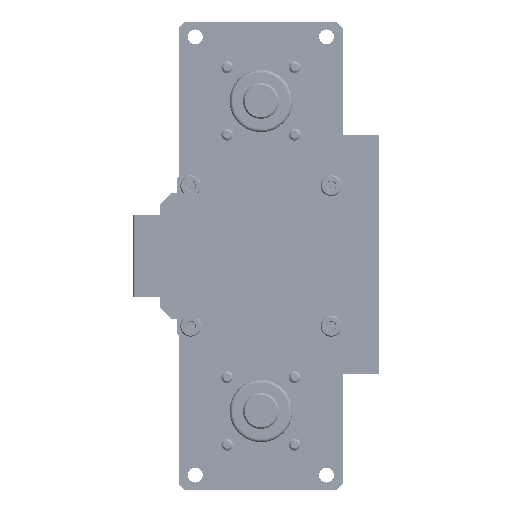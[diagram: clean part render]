
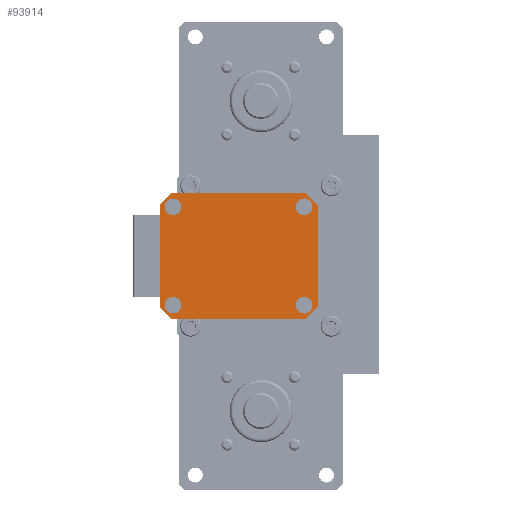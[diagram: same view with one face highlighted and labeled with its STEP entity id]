
A CAD part, left-side view. The second image highlights one B-rep face of the part: STEP entity #93914.
In plain terms, the highlighted planar face has unit normal (-1, 0, 0).
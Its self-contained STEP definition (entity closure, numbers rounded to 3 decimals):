
#9210 = CARTESIAN_POINT ( 'NONE',  ( -402.288, -5.904, 5.255 ) ) ;
#9212 = CARTESIAN_POINT ( 'NONE',  ( -402.288, -5.904, -0.345 ) ) ;
#9217 = CARTESIAN_POINT ( 'NONE',  ( -402.288, -5.904, 38.255 ) ) ;
#9218 = CARTESIAN_POINT ( 'NONE',  ( -402.288, -5.904, 32.655 ) ) ;
#9224 = CARTESIAN_POINT ( 'NONE',  ( -402.288, 38.096, 38.255 ) ) ;
#9226 = CARTESIAN_POINT ( 'NONE',  ( -402.288, 38.096, 32.655 ) ) ;
#9232 = CARTESIAN_POINT ( 'NONE',  ( -402.288, 38.096, 5.255 ) ) ;
#9234 = CARTESIAN_POINT ( 'NONE',  ( -402.288, 38.096, -0.345 ) ) ;
#23534 = AXIS2_PLACEMENT_3D ( 'NONE', #29390, #29395, #29397 ) ;
#24091 = CARTESIAN_POINT ( 'NONE',  ( -402.288, -5.904, 2.455 ) ) ;
#24094 = DIRECTION ( 'NONE',  ( 1., 0., 0. ) ) ;
#24097 = DIRECTION ( 'NONE',  ( 0., 0., 1. ) ) ;
#24127 = CARTESIAN_POINT ( 'NONE',  ( -402.288, -5.904, 35.455 ) ) ;
#24129 = DIRECTION ( 'NONE',  ( 1., 0., 0. ) ) ;
#24131 = DIRECTION ( 'NONE',  ( 0., 0., 1. ) ) ;
#24154 = CARTESIAN_POINT ( 'NONE',  ( -402.288, 38.096, 35.455 ) ) ;
#24156 = DIRECTION ( 'NONE',  ( 1., 0., 0. ) ) ;
#24158 = DIRECTION ( 'NONE',  ( 0., 0., 1. ) ) ;
#24181 = CARTESIAN_POINT ( 'NONE',  ( -402.288, 38.096, 2.455 ) ) ;
#24182 = DIRECTION ( 'NONE',  ( 1., 0., 0. ) ) ;
#24184 = DIRECTION ( 'NONE',  ( 0., 0., 1. ) ) ;
#26938 = CIRCLE ( 'NONE', #26941, 2.8 ) ;
#26941 = AXIS2_PLACEMENT_3D ( 'NONE', #24091, #24094, #24097 ) ;
#26945 = CIRCLE ( 'NONE', #26948, 2.8 ) ;
#26948 = AXIS2_PLACEMENT_3D ( 'NONE', #24127, #24129, #24131 ) ;
#26952 = CIRCLE ( 'NONE', #26954, 2.8 ) ;
#26954 = AXIS2_PLACEMENT_3D ( 'NONE', #24154, #24156, #24158 ) ;
#26958 = CIRCLE ( 'NONE', #26960, 2.8 ) ;
#26960 = AXIS2_PLACEMENT_3D ( 'NONE', #24181, #24182, #24184 ) ;
#29373 = FACE_BOUND ( 'NONE', #110161, .T. ) ;
#29375 = FACE_BOUND ( 'NONE', #110113, .T. ) ;
#29377 = FACE_BOUND ( 'NONE', #110125, .T. ) ;
#29379 = FACE_BOUND ( 'NONE', #110157, .T. ) ;
#29382 = FACE_OUTER_BOUND ( 'NONE', #110151, .T. ) ;
#29390 = CARTESIAN_POINT ( 'NONE',  ( -402.288, -10.404, -2.045 ) ) ;
#29394 = PLANE ( 'NONE',  #23534 ) ;
#29395 = DIRECTION ( 'NONE',  ( -1., 0., 0. ) ) ;
#29397 = DIRECTION ( 'NONE',  ( 0., 0., 1. ) ) ;
#34141 = CARTESIAN_POINT ( 'NONE',  ( -402.288, 42.596, 1.955 ) ) ;
#34143 = CARTESIAN_POINT ( 'NONE',  ( -402.288, -10.404, 1.955 ) ) ;
#34152 = CARTESIAN_POINT ( 'NONE',  ( -402.288, 42.596, 35.955 ) ) ;
#34158 = CARTESIAN_POINT ( 'NONE',  ( -402.288, -6.404, 39.955 ) ) ;
#34164 = CARTESIAN_POINT ( 'NONE',  ( -402.288, -10.404, 35.955 ) ) ;
#34165 = CARTESIAN_POINT ( 'NONE',  ( -402.288, 38.596, 39.955 ) ) ;
#34166 = CARTESIAN_POINT ( 'NONE',  ( -402.288, 38.596, -2.045 ) ) ;
#34167 = CARTESIAN_POINT ( 'NONE',  ( -402.288, -6.404, -2.045 ) ) ;
#48459 = CIRCLE ( 'NONE', #48480, 2.8 ) ;
#48467 = CIRCLE ( 'NONE', #48475, 2.8 ) ;
#48472 = CIRCLE ( 'NONE', #48485, 2.8 ) ;
#48475 = AXIS2_PLACEMENT_3D ( 'NONE', #68251, #68252, #68253 ) ;
#48478 = CIRCLE ( 'NONE', #48491, 2.8 ) ;
#48480 = AXIS2_PLACEMENT_3D ( 'NONE', #68254, #68255, #68256 ) ;
#48485 = AXIS2_PLACEMENT_3D ( 'NONE', #68257, #68258, #68259 ) ;
#48491 = AXIS2_PLACEMENT_3D ( 'NONE', #68262, #68263, #68264 ) ;
#49057 = VECTOR ( 'NONE', #69727, 1000. ) ;
#49084 = VECTOR ( 'NONE', #69732, 1000. ) ;
#49090 = VECTOR ( 'NONE', #69739, 1000. ) ;
#49093 = VECTOR ( 'NONE', #69746, 1000. ) ;
#49096 = VECTOR ( 'NONE', #69751, 1000. ) ;
#49098 = VECTOR ( 'NONE', #69758, 1000. ) ;
#49101 = VECTOR ( 'NONE', #69764, 1000. ) ;
#49103 = VECTOR ( 'NONE', #69770, 1000. ) ;
#68251 = CARTESIAN_POINT ( 'NONE',  ( -402.288, 38.096, 2.455 ) ) ;
#68252 = DIRECTION ( 'NONE',  ( 1., 0., 0. ) ) ;
#68253 = DIRECTION ( 'NONE',  ( 0., 0., 1. ) ) ;
#68254 = CARTESIAN_POINT ( 'NONE',  ( -402.288, 38.096, 35.455 ) ) ;
#68255 = DIRECTION ( 'NONE',  ( 1., 0., 0. ) ) ;
#68256 = DIRECTION ( 'NONE',  ( 0., 0., 1. ) ) ;
#68257 = CARTESIAN_POINT ( 'NONE',  ( -402.288, -5.904, 35.455 ) ) ;
#68258 = DIRECTION ( 'NONE',  ( 1., 0., 0. ) ) ;
#68259 = DIRECTION ( 'NONE',  ( 0., 0., 1. ) ) ;
#68262 = CARTESIAN_POINT ( 'NONE',  ( -402.288, -5.904, 2.455 ) ) ;
#68263 = DIRECTION ( 'NONE',  ( 1., 0., 0. ) ) ;
#68264 = DIRECTION ( 'NONE',  ( 0., 0., 1. ) ) ;
#69701 = CARTESIAN_POINT ( 'NONE',  ( -402.288, -10.404, 18.955 ) ) ;
#69713 = LINE ( 'NONE', #69729, #49084 ) ;
#69715 = LINE ( 'NONE', #69734, #49090 ) ;
#69717 = LINE ( 'NONE', #69701, #49057 ) ;
#69725 = LINE ( 'NONE', #69741, #49093 ) ;
#69727 = DIRECTION ( 'NONE',  ( 0., 0., -1. ) ) ;
#69729 = CARTESIAN_POINT ( 'NONE',  ( -402.288, -8.404, 37.955 ) ) ;
#69731 = LINE ( 'NONE', #69747, #49096 ) ;
#69732 = DIRECTION ( 'NONE',  ( 0., -0.707, -0.707 ) ) ;
#69734 = CARTESIAN_POINT ( 'NONE',  ( -402.288, 16.096, 39.955 ) ) ;
#69737 = LINE ( 'NONE', #69753, #49098 ) ;
#69739 = DIRECTION ( 'NONE',  ( 0., -1., 0. ) ) ;
#69741 = CARTESIAN_POINT ( 'NONE',  ( -402.288, 40.596, 37.955 ) ) ;
#69744 = LINE ( 'NONE', #69760, #49101 ) ;
#69746 = DIRECTION ( 'NONE',  ( 0., -0.707, 0.707 ) ) ;
#69747 = CARTESIAN_POINT ( 'NONE',  ( -402.288, 42.596, 18.955 ) ) ;
#69749 = LINE ( 'NONE', #69766, #49103 ) ;
#69751 = DIRECTION ( 'NONE',  ( 0., 0., 1. ) ) ;
#69753 = CARTESIAN_POINT ( 'NONE',  ( -402.288, 40.596, -0.045 ) ) ;
#69758 = DIRECTION ( 'NONE',  ( 0., 0.707, 0.707 ) ) ;
#69760 = CARTESIAN_POINT ( 'NONE',  ( -402.288, 16.096, -2.045 ) ) ;
#69764 = DIRECTION ( 'NONE',  ( 0., 1., 0. ) ) ;
#69766 = CARTESIAN_POINT ( 'NONE',  ( -402.288, -8.404, -0.045 ) ) ;
#69770 = DIRECTION ( 'NONE',  ( 0., 0.707, -0.707 ) ) ;
#93914 = ADVANCED_FACE ( 'NONE', ( #29377, #29379, #29373, #29375, #29382 ), #29394, .T. ) ;
#96998 = EDGE_CURVE ( 'NONE', #143836, #143835, #48467, .T. ) ;
#97000 = EDGE_CURVE ( 'NONE', #143832, #143831, #48459, .T. ) ;
#97003 = EDGE_CURVE ( 'NONE', #143827, #143826, #48472, .T. ) ;
#97005 = EDGE_CURVE ( 'NONE', #143823, #143822, #48478, .T. ) ;
#97426 = EDGE_CURVE ( 'NONE', #147276, #147253, #69717, .T. ) ;
#97429 = EDGE_CURVE ( 'NONE', #147270, #147276, #69713, .T. ) ;
#97431 = EDGE_CURVE ( 'NONE', #147277, #147270, #69715, .T. ) ;
#97433 = EDGE_CURVE ( 'NONE', #147264, #147277, #69725, .T. ) ;
#97436 = EDGE_CURVE ( 'NONE', #147251, #147264, #69731, .T. ) ;
#97438 = EDGE_CURVE ( 'NONE', #147278, #147251, #69737, .T. ) ;
#97440 = EDGE_CURVE ( 'NONE', #147279, #147278, #69744, .T. ) ;
#97443 = EDGE_CURVE ( 'NONE', #147253, #147279, #69749, .T. ) ;
#101635 = ORIENTED_EDGE ( 'NONE', *, *, #144826, .T. ) ;
#101636 = ORIENTED_EDGE ( 'NONE', *, *, #97005, .T. ) ;
#101637 = ORIENTED_EDGE ( 'NONE', *, *, #144830, .T. ) ;
#101638 = ORIENTED_EDGE ( 'NONE', *, *, #97003, .T. ) ;
#101639 = ORIENTED_EDGE ( 'NONE', *, *, #144834, .T. ) ;
#101640 = ORIENTED_EDGE ( 'NONE', *, *, #97000, .T. ) ;
#101641 = ORIENTED_EDGE ( 'NONE', *, *, #144838, .T. ) ;
#101642 = ORIENTED_EDGE ( 'NONE', *, *, #96998, .T. ) ;
#101643 = ORIENTED_EDGE ( 'NONE', *, *, #97426, .F. ) ;
#101644 = ORIENTED_EDGE ( 'NONE', *, *, #97429, .F. ) ;
#101645 = ORIENTED_EDGE ( 'NONE', *, *, #97431, .F. ) ;
#101646 = ORIENTED_EDGE ( 'NONE', *, *, #97433, .F. ) ;
#101647 = ORIENTED_EDGE ( 'NONE', *, *, #97436, .F. ) ;
#101648 = ORIENTED_EDGE ( 'NONE', *, *, #97438, .F. ) ;
#101649 = ORIENTED_EDGE ( 'NONE', *, *, #97440, .F. ) ;
#101650 = ORIENTED_EDGE ( 'NONE', *, *, #97443, .F. ) ;
#110113 = EDGE_LOOP ( 'NONE', ( #101641, #101642 ) ) ;
#110125 = EDGE_LOOP ( 'NONE', ( #101635, #101636 ) ) ;
#110151 = EDGE_LOOP ( 'NONE', ( #101643, #101644, #101645, #101646, #101647, #101648, #101649, #101650 ) ) ;
#110157 = EDGE_LOOP ( 'NONE', ( #101637, #101638 ) ) ;
#110161 = EDGE_LOOP ( 'NONE', ( #101639, #101640 ) ) ;
#143822 = VERTEX_POINT ( 'NONE', #9210 ) ;
#143823 = VERTEX_POINT ( 'NONE', #9212 ) ;
#143826 = VERTEX_POINT ( 'NONE', #9217 ) ;
#143827 = VERTEX_POINT ( 'NONE', #9218 ) ;
#143831 = VERTEX_POINT ( 'NONE', #9224 ) ;
#143832 = VERTEX_POINT ( 'NONE', #9226 ) ;
#143835 = VERTEX_POINT ( 'NONE', #9232 ) ;
#143836 = VERTEX_POINT ( 'NONE', #9234 ) ;
#144826 = EDGE_CURVE ( 'NONE', #143822, #143823, #26938, .T. ) ;
#144830 = EDGE_CURVE ( 'NONE', #143826, #143827, #26945, .T. ) ;
#144834 = EDGE_CURVE ( 'NONE', #143831, #143832, #26952, .T. ) ;
#144838 = EDGE_CURVE ( 'NONE', #143835, #143836, #26958, .T. ) ;
#147251 = VERTEX_POINT ( 'NONE', #34141 ) ;
#147253 = VERTEX_POINT ( 'NONE', #34143 ) ;
#147264 = VERTEX_POINT ( 'NONE', #34152 ) ;
#147270 = VERTEX_POINT ( 'NONE', #34158 ) ;
#147276 = VERTEX_POINT ( 'NONE', #34164 ) ;
#147277 = VERTEX_POINT ( 'NONE', #34165 ) ;
#147278 = VERTEX_POINT ( 'NONE', #34166 ) ;
#147279 = VERTEX_POINT ( 'NONE', #34167 ) ;
